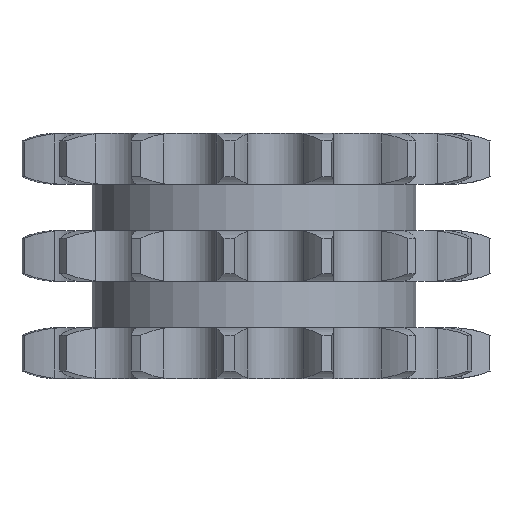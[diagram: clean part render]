
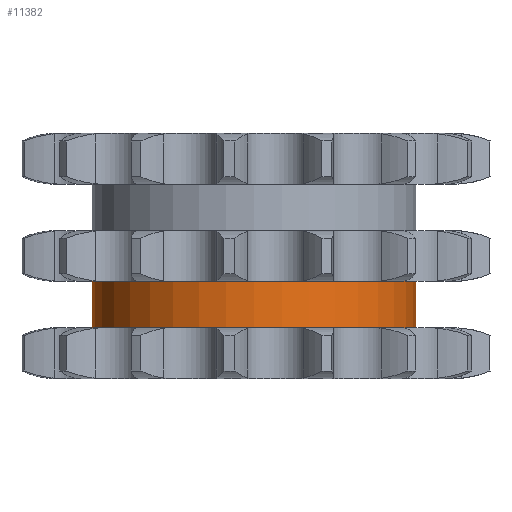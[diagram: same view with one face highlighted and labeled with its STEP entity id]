
A CAD part, left-side view. The second image highlights one B-rep face of the part: STEP entity #11382.
In plain terms, the highlighted cylindrical face has radius 16.906 mm (diameter 33.813 mm), a partial arc.
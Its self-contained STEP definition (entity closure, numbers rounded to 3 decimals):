
#2547=DIRECTION('',(0.,0.,-1.));
#2548=VECTOR('',#2547,4.85);
#2549=CARTESIAN_POINT('',(0.,16.906,-2.65));
#2550=LINE('',#2549,#2548);
#2554=CARTESIAN_POINT('',(0.,0.,-2.65));
#2555=DIRECTION('',(0.,0.,1.));
#2556=DIRECTION('',(0.,1.,0.));
#2557=AXIS2_PLACEMENT_3D('',#2554,#2555,#2556);
#2562=DIRECTION('',(0.,0.,-1.));
#2563=VECTOR('',#2562,4.85);
#2564=CARTESIAN_POINT('',(0.,-16.906,-2.65));
#2565=LINE('',#2564,#2563);
#2569=CARTESIAN_POINT('',(0.,0.,-7.5));
#2570=DIRECTION('',(0.,0.,1.));
#2571=DIRECTION('',(0.,1.,0.));
#2572=AXIS2_PLACEMENT_3D('',#2569,#2570,#2571);
#8532=CARTESIAN_POINT('',(0.,16.906,-2.65));
#8533=CARTESIAN_POINT('',(0.,16.906,-7.5));
#8534=VERTEX_POINT('',#8532);
#8535=VERTEX_POINT('',#8533);
#8536=CARTESIAN_POINT('',(0.,-16.906,-2.65));
#8537=CARTESIAN_POINT('',(0.,-16.906,-7.5));
#8538=VERTEX_POINT('',#8536);
#8539=VERTEX_POINT('',#8537);
#11370=CARTESIAN_POINT('',(0.,0.,8.25));
#11371=DIRECTION('',(0.,0.,-1.));
#11372=DIRECTION('',(0.,-1.,0.));
#11373=AXIS2_PLACEMENT_3D('',#11370,#11371,#11372);
#11374=CYLINDRICAL_SURFACE('',#11373,16.906);
#11375=ORIENTED_EDGE('',*,*,#11360,.F.);
#11376=ORIENTED_EDGE('',*,*,#11350,.T.);
#11377=ORIENTED_EDGE('',*,*,#11364,.T.);
#11379=ORIENTED_EDGE('',*,*,#11378,.F.);
#11380=EDGE_LOOP('',(#11375,#11376,#11377,#11379));
#11381=FACE_OUTER_BOUND('',#11380,.F.);
#11382=ADVANCED_FACE('',(#11381),#11374,.T.);
#2558=CIRCLE('',#2557,16.906);
#2573=CIRCLE('',#2572,16.906);
#11350=EDGE_CURVE('',#8534,#8538,#2558,.T.);
#11360=EDGE_CURVE('',#8534,#8535,#2550,.T.);
#11364=EDGE_CURVE('',#8538,#8539,#2565,.T.);
#11378=EDGE_CURVE('',#8535,#8539,#2573,.T.);
